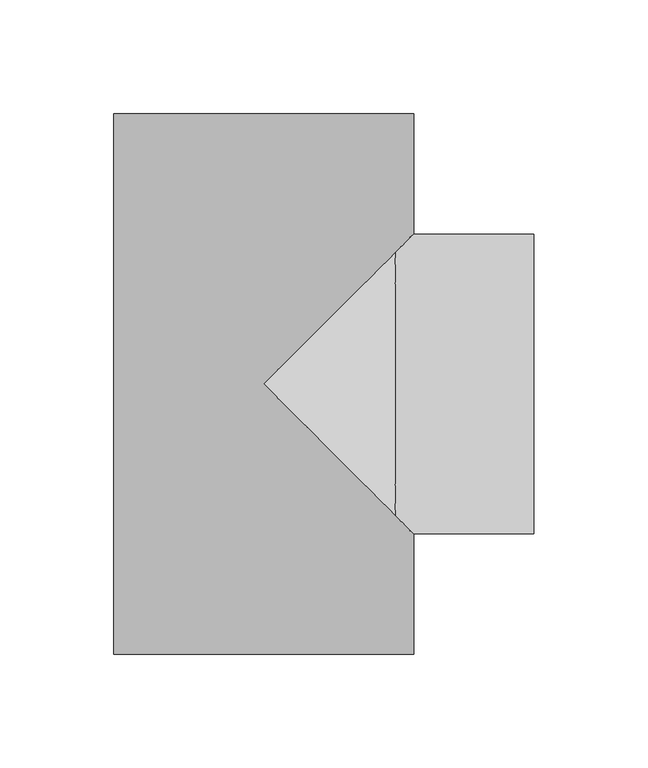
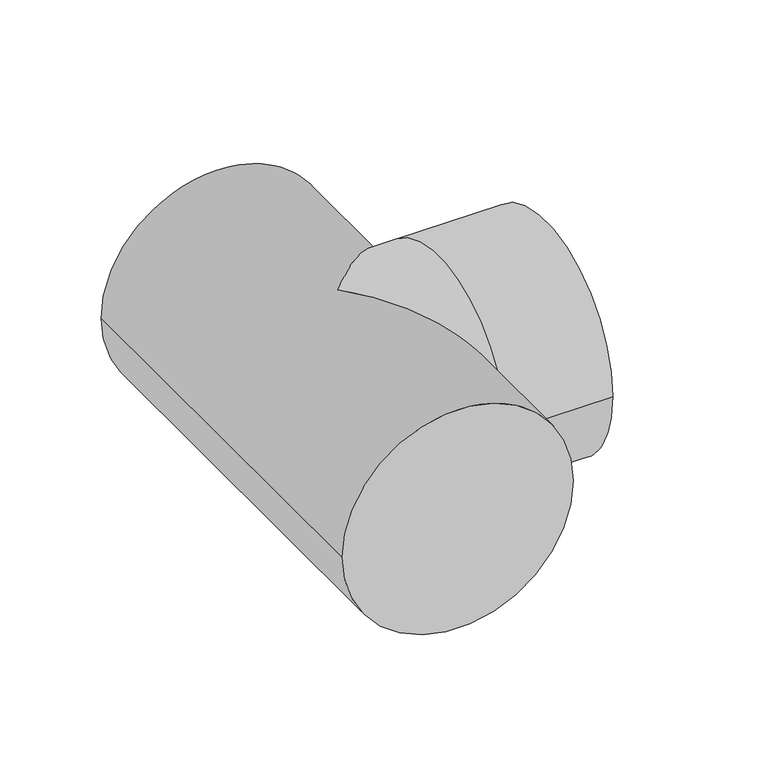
"""IFC4 building model written with IfcOpenShell, lengths in millimetres: pipe fitting geometry, 01101004 : Tê a 90º."""

from ifc_helpers import new_model, si_unit, frame, origin, place, context, project, spatial, circle_curve, ellipse_curve, source, transform, mapped, element, save
from ifc_brep_helpers import plane_surface, cylinder_surface, advanced_brep


def pipe_fitting_c7a240b6(model_context):
    return source(origin(), model_context, "Body", "AdvancedBrep", [
        advanced_brep(
        [(-66.0, 119.0, 0.0), (66.0, 119.0, 0.0), (-66.0, -119.0, 0.0), (66.0, -119.0, 0.0), (66.0, -66.0, 0.0), (58.0, -58.0, 31.4960315), (0.0, 0.0, 66.0), (58.0, 58.0, 31.4960315), (66.0, 66.0, 0.0), (58.0, 58.0, -31.4960315), (0.0, 0.0, -66.0), (58.0, -58.0, -31.4960315), (119.0, 66.0, 0.0), (119.0, -66.0, 0.0)],
        [
            (0, 1, circle_curve(frame((0.0, 119.0, 0.0), z_axis=(0.0, 1.0, 0.0), x_axis=(1.0, 0.0, 0.0)), 66.0)),
            (1, 0, circle_curve(frame((0.0, 119.0, 0.0), z_axis=(0.0, 1.0, 0.0), x_axis=(1.0, 0.0, 0.0)), 66.0)),
            (2, 3, circle_curve(frame((0.0, -119.0, 0.0), z_axis=(0.0, -1.0, 0.0), x_axis=(1.0, 0.0, 0.0)), 66.0)),
            (3, 2, circle_curve(frame((0.0, -119.0, 0.0), z_axis=(0.0, -1.0, 0.0), x_axis=(1.0, 0.0, 0.0)), 66.0)),
            (0, 2),
            (3, 4),
            (4, 5, ellipse_curve(frame((0.0, 0.0, 0.0), z_axis=(-0.7071067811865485, -0.7071067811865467, 0.0), x_axis=(-0.7071067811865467, 0.7071067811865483, 0.0)), 93.3380951, 66.0)),
            (5, 6, ellipse_curve(frame((0.0, 0.0, 0.0), z_axis=(-0.7071067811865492, -0.7071067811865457, 0.0), x_axis=(-0.7071067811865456, 0.7071067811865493, 0.0)), 93.3380951, 66.0)),
            (6, 7, ellipse_curve(frame((0.0, 0.0, 0.0), z_axis=(-0.7071067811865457, 0.7071067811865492, 0.0), x_axis=(0.7071067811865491, 0.7071067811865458, 0.0)), 93.3380951, 66.0)),
            (7, 8, ellipse_curve(frame((0.0, 0.0, 0.0), z_axis=(-0.7071067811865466, 0.7071067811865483, 0.0), x_axis=(0.7071067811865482, 0.7071067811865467, 0.0)), 93.3380951, 66.0)),
            (8, 1),
            (8, 9, ellipse_curve(frame((0.0, 0.0, 0.0), z_axis=(-0.7071067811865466, 0.7071067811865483, 0.0), x_axis=(0.7071067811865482, 0.7071067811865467, 0.0)), 93.3380951, 66.0)),
            (9, 10, ellipse_curve(frame((0.0, 0.0, 0.0), z_axis=(-0.7071067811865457, 0.7071067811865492, 0.0), x_axis=(0.7071067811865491, 0.7071067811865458, 0.0)), 93.3380951, 66.0)),
            (10, 11, ellipse_curve(frame((0.0, 0.0, 0.0), z_axis=(-0.7071067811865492, -0.7071067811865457, 0.0), x_axis=(-0.7071067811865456, 0.7071067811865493, 0.0)), 93.3380951, 66.0)),
            (11, 4, ellipse_curve(frame((0.0, 0.0, 0.0), z_axis=(-0.7071067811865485, -0.7071067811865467, 0.0), x_axis=(-0.7071067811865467, 0.7071067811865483, 0.0)), 93.3380951, 66.0)),
            (12, 13, circle_curve(frame((119.0, 0.0, 0.0), z_axis=(1.0, 0.0, 0.0), x_axis=(0.0, -1.0, 0.0)), 66.0)),
            (13, 12, circle_curve(frame((119.0, 0.0, 0.0), z_axis=(1.0, 0.0, 0.0), x_axis=(0.0, -1.0, 0.0)), 66.0)),
            (5, 7, circle_curve(frame((58.0, 0.0, 0.0), z_axis=(-1.0, 0.0, 0.0), x_axis=(0.0, -1.0, 0.0)), 66.0)),
            (9, 11, circle_curve(frame((58.0, 0.0, 0.0), z_axis=(-1.0, 0.0, 0.0), x_axis=(0.0, -1.0, 0.0)), 66.0)),
            (12, 8),
            (4, 13),
        ],
        [
            plane_surface(frame((0.0, 119.0, 0.0), z_axis=(0.0, 1.0, 0.0), x_axis=(0.0, 0.0, 1.0))),
            plane_surface(frame((0.0, -119.0, 0.0), z_axis=(0.0, -1.0, 0.0), x_axis=(0.0, 0.0, 1.0))),
            cylinder_surface(frame((0.0, 119.0, 0.0), z_axis=(0.0, 1.0, 0.0), x_axis=(1.0, 0.0, 0.0)), 66.0),
            plane_surface(frame((119.0, 0.0, 0.0), z_axis=(1.0, 0.0, 0.0), x_axis=(0.0, 0.0, 1.0))),
            cylinder_surface(frame((58.0, 0.0, 0.0), z_axis=(1.0, 0.0, 0.0), x_axis=(0.0, -1.0, 0.0)), 66.0),
            cylinder_surface(frame((119.0, 0.0, 0.0), z_axis=(1.0, 0.0, 0.0), x_axis=(0.0, -1.0, 0.0)), 66.0),
        ],
        [
            (0, [[1, 2]]),
            (1, [[3, 4]]),
            (2, [[-1, 5, -4, 6, 7, 8, 9, 10, 11]]),
            (2, [[-2, -11, 12, 13, 14, 15, -6, -3, -5]]),
            (3, [[16, 17]]),
            (4, [[18, -9, -8]]),
            (4, [[19, -14, -13]]),
            (5, [[-16, 20, -10, -18, -7, 21]]),
            (5, [[-17, -21, -15, -19, -12, -20]]),
        ],
    ),
    ])


if __name__ == "__main__":
    model = new_model("IFC4")
    model_context = context("Model", 3, world=origin())
    ifc_project = project(units=[si_unit("LENGTHUNIT", "METRE", prefix="MILLI")], contexts=[model_context])
    site = spatial("IfcSite", under=ifc_project)
    building = spatial("IfcBuilding", under=site)
    placement = place(None, origin())
    pipe_fitting_shape = pipe_fitting_c7a240b6(model_context)
    element("IfcPipeFitting", 1, ObjectType="01101004 : Tê a 90º", at=placement, inside=building, context=model_context, shape_type="MappedRepresentation", body=[
        mapped(pipe_fitting_shape, transform((0.0, 0.0, 0.0), x_axis=(1.0, 0.0, 0.0), y_axis=(0.0, 1.0, 0.0), z_axis=(0.0, 0.0, 1.0))),
    ])
    save(model, "model.ifc")
